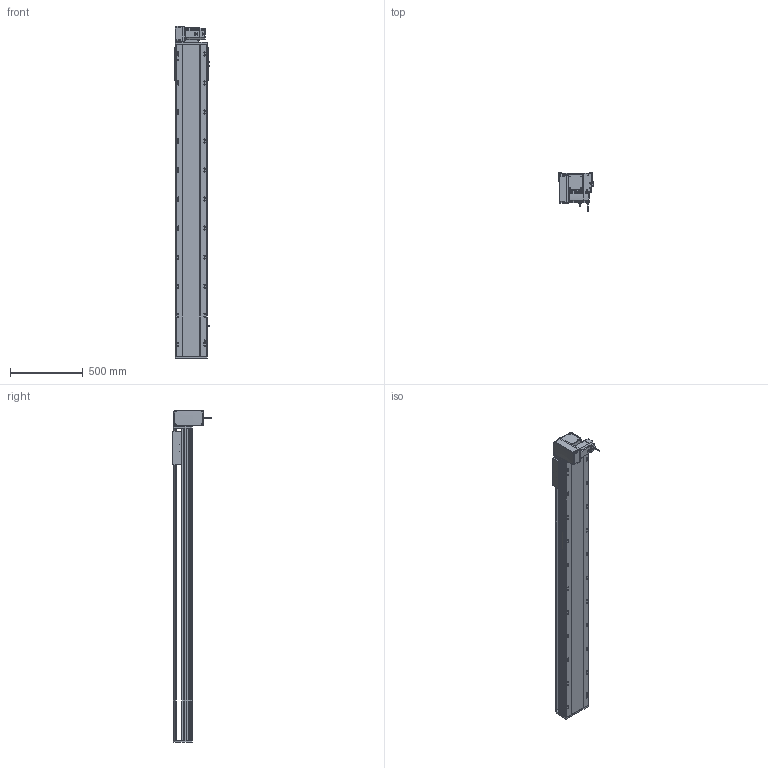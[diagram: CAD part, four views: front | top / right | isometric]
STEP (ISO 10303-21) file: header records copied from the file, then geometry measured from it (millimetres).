
FILE_DESCRIPTION (( 'STEP AP214' ), '1' );
FILE_NAME ('RTB22S-XX-1800-LM-M75-C4.STEP', '2025-12-12T03:53:56', ( '' ), ( '' ), 'SwSTEP 2.0', 'SolidWorks 2018', '' );
FILE_SCHEMA (( 'AUTOMOTIVE_DESIGN' ));
Length unit declared in the file: millimetre
Products named in the file (14): RTB22S-L-011菁釱^RTB22S-XX-XX-LM-M75-C4; RMP22S-LM-々湍釱蚾饜^RTB22S-XX-XX-LM-M75-C4; RTB22S-XX-1800-LM-M75-C4; RTB22S-GY-005P^RMP22S-LM-々湍釱蚾饜_RTB22S-XX-XX-LM-M75-C4; 750W萇儂^RTB22S-XX-XX-LM-M75-C4; RTH22-GY-013外置感应片^RTB22S-XX-XX-LM-M75-C4; RTB22S-GY-008-M75--萇儂啣^RMP22S-LM-々湍釱蚾饜_RTB22S-XX-XX-LM-M75-C4; RTB22S-GY-018P^RMP22S-LM-々湍釱蚾饜_RTB22S-XX-XX-LM-M75-C4; RTB22S-GY-017P^RMP22S-LM-々湍釱蚾饜_RTB22S-XX-XX-LM-M75-C4; RTB22S-GY-007奻裔^RTB22S-XX-XX-LM-M75-C4; RTB22S-GY-001耜裔^RTB22S-XX-XX-LM-M75-C4; RTB22S-L-004賑釱^RTB22S-XX-XX-LM-M75-C4; RTB22S-GY-014--々湍釱^RMP22S-LM-々湍釱蚾饜_RTB22S-XX-XX-LM-M75-C4; OMRON EE-SX672 传感器^RTB22S-XX-XX-LM-M75-C4
Assembly tree (16 placements, depth 3):
  RTB22S-XX-1800-LM-M75-C4
    RTB22S-L-011菁釱^RTB22S-XX-XX-LM-M75-C4
    RTB22S-GY-001耜裔^RTB22S-XX-XX-LM-M75-C4
    750W萇儂^RTB22S-XX-XX-LM-M75-C4
    RTB22S-GY-007奻裔^RTB22S-XX-XX-LM-M75-C4
    RTB22S-L-004賑釱^RTB22S-XX-XX-LM-M75-C4
    RTH22-GY-013外置感应片^RTB22S-XX-XX-LM-M75-C4
    OMRON EE-SX672 传感器^RTB22S-XX-XX-LM-M75-C4  x3
    RMP22S-LM-々湍釱蚾饜^RTB22S-XX-XX-LM-M75-C4
      RTB22S-GY-014--々湍釱^RMP22S-LM-々湍釱蚾饜_RTB22S-XX-XX-LM-M75-C4
      RTB22S-GY-017P^RMP22S-LM-々湍釱蚾饜_RTB22S-XX-XX-LM-M75-C4  x2
      RTB22S-GY-005P^RMP22S-LM-々湍釱蚾饜_RTB22S-XX-XX-LM-M75-C4
      RTB22S-GY-008-M75--萇儂啣^RMP22S-LM-々湍釱蚾饜_RTB22S-XX-XX-LM-M75-C4
      RTB22S-GY-018P^RMP22S-LM-々湍釱蚾饜_RTB22S-XX-XX-LM-M75-C4
Bounding box: 238.5 x 264.7 x 2287.5 mm (x, y, z)
Volume: 30612968.6 mm3; surface area: 3147150.3 mm2
Topology: 15 solids, 15 shells, 2037 faces, 5536 edges, 3542 vertices
Faces by surface type: plane 921, cylinder 658, bspline 296, cone 150, sphere 8, torus 4
Entity records: 54742 total; most frequent: CARTESIAN_POINT 15616, ORIENTED_EDGE 7836, DIRECTION 7592, EDGE_CURVE 3918, AXIS2_PLACEMENT_3D 2698, VERTEX_POINT 2546, LINE 2196, VECTOR 2196
